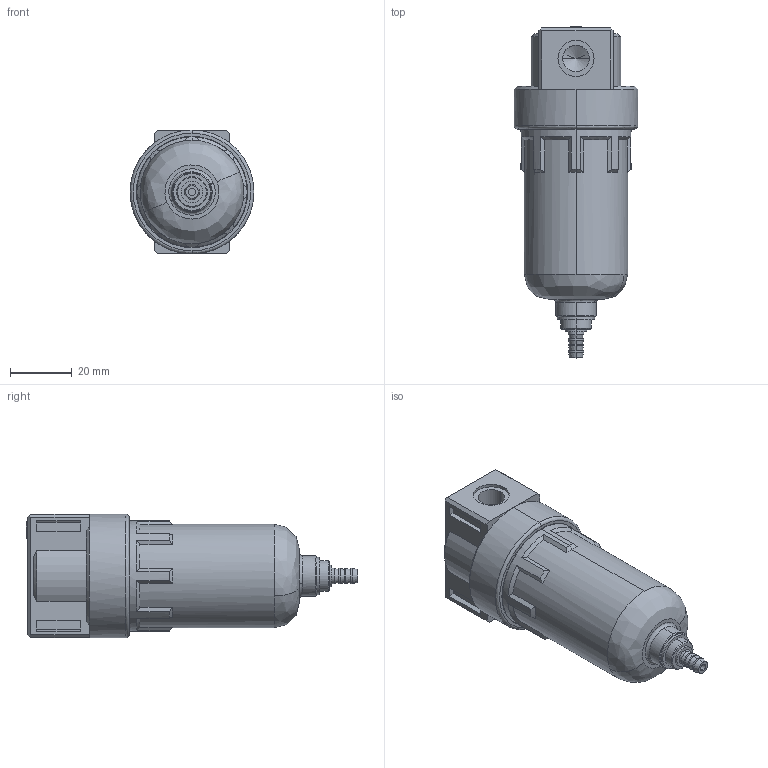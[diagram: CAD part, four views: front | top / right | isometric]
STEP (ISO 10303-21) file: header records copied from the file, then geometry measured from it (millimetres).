
FILE_DESCRIPTION (( 'STEP AP214' ), '1' );
FILE_NAME ('AF-1500.STEP', '2016-01-21T15:34:17', ( '' ), ( '' ), 'SwSTEP 2.0', 'SolidWorks 2016', '' );
FILE_SCHEMA (( 'AUTOMOTIVE_DESIGN' ));
Length unit declared in the file: millimetre
Products named in the file (3): AF-1500; 1; 2
Assembly tree (2 placements, depth 2):
  AF-1500
    1
    2
Bounding box: 40 x 107.3 x 40 mm (x, y, z)
Volume: 45396 mm3; surface area: 22759.1 mm2
Topology: 2 solids, 2 shells, 184 faces, 447 edges, 284 vertices
Faces by surface type: plane 79, cylinder 54, cone 43, bspline 8
Entity records: 6150 total; most frequent: CARTESIAN_POINT 1722, DIRECTION 927, ORIENTED_EDGE 886, EDGE_CURVE 443, AXIS2_PLACEMENT_3D 355, VERTEX_POINT 284, LINE 217, VECTOR 217
